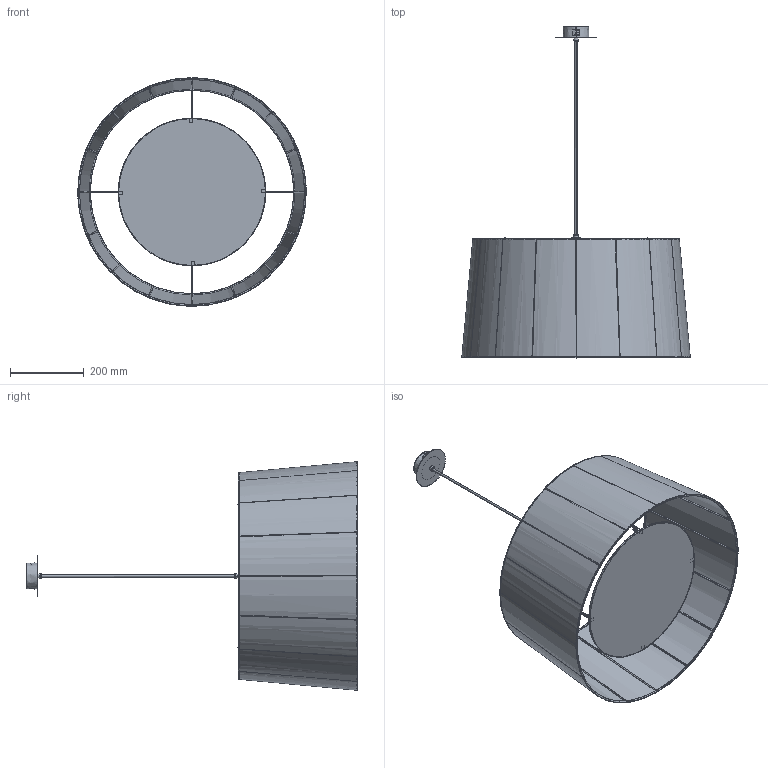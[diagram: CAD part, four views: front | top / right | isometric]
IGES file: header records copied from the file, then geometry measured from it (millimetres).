
Start section: SolidWorks IGES file using analytic representation for surfaces
Global section: file name: C:\Users\Andrea.Obradors\Desktop\GT5_3D.IGS; native system: SolidWorks 2013; preprocessor: SolidWorks 2013; author: Andrea.Obradors; date: 150527.101815; units: millimetre
Bounding box: 619.81 x 899.54 x 620 mm (x, y, z)
Surface area: 1658967.2 mm2 (no closed solid volume)
Topology: 0 solids, 0 shells, 209 faces, 3253 edges, 3858 vertices
Faces by surface type: revolution 119, bspline 90
